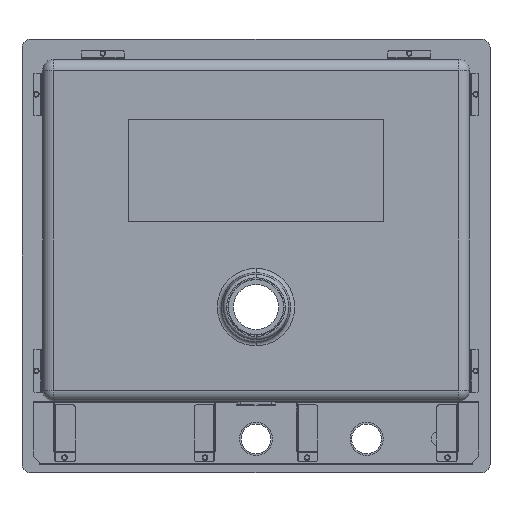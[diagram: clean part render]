
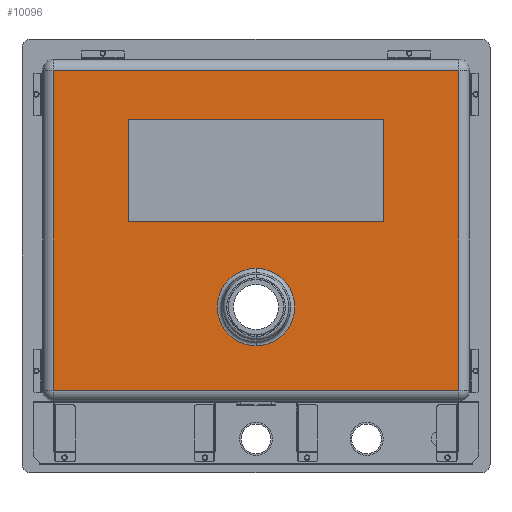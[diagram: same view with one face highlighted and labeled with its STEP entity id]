
A CAD part, front view. The second image highlights one B-rep face of the part: STEP entity #10096.
In plain terms, the highlighted planar face has unit normal (0, -1, 0).
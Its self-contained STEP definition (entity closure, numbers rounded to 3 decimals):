
#136 = VECTOR ( 'NONE', #2915, 1000. ) ;
#161 = ORIENTED_EDGE ( 'NONE', *, *, #6585, .F. ) ;
#162 = VERTEX_POINT ( 'NONE', #6644 ) ;
#616 = VERTEX_POINT ( 'NONE', #950 ) ;
#647 = EDGE_LOOP ( 'NONE', ( #8542, #11366 ) ) ;
#767 = VECTOR ( 'NONE', #3692, 1000. ) ;
#787 = FACE_BOUND ( 'NONE', #647, .T. ) ;
#928 = VECTOR ( 'NONE', #8875, 1000. ) ;
#933 = EDGE_CURVE ( 'NONE', #162, #10550, #2764, .T. ) ;
#950 = CARTESIAN_POINT ( 'NONE',  ( 508., -200.9, 408. ) ) ;
#1377 = LINE ( 'NONE', #4119, #136 ) ;
#2041 = CARTESIAN_POINT ( 'NONE',  ( 0., -200.9, 408. ) ) ;
#2388 = FACE_OUTER_BOUND ( 'NONE', #2451, .T. ) ;
#2399 = VERTEX_POINT ( 'NONE', #4101 ) ;
#2451 = EDGE_LOOP ( 'NONE', ( #161, #9147, #11455, #8308 ) ) ;
#2519 = DIRECTION ( 'NONE',  ( 0., 1., 0. ) ) ;
#2729 = CARTESIAN_POINT ( 'NONE',  ( 508., -200.9, 0. ) ) ;
#2764 = CIRCLE ( 'NONE', #5272, 45.535 ) ;
#2915 = DIRECTION ( 'NONE',  ( -1., 0., 0. ) ) ;
#2982 = VECTOR ( 'NONE', #10013, 1000. ) ;
#3185 = EDGE_CURVE ( 'NONE', #2399, #11620, #11798, .T. ) ;
#3692 = DIRECTION ( 'NONE',  ( 0., 0., -1. ) ) ;
#3975 = EDGE_CURVE ( 'NONE', #11510, #2399, #1377, .T. ) ;
#4101 = CARTESIAN_POINT ( 'NONE',  ( 32., -200.9, 32. ) ) ;
#4119 = CARTESIAN_POINT ( 'NONE',  ( 0., -200.9, 32. ) ) ;
#4200 = CARTESIAN_POINT ( 'NONE',  ( 270., -200.9, 130. ) ) ;
#4230 = CARTESIAN_POINT ( 'NONE',  ( 270., -200.9, 130. ) ) ;
#4398 = AXIS2_PLACEMENT_3D ( 'NONE', #4200, #7137, #10768 ) ;
#4443 = CARTESIAN_POINT ( 'NONE',  ( 32., -200.9, 408. ) ) ;
#5086 = EDGE_CURVE ( 'NONE', #10550, #162, #10484, .T. ) ;
#5198 = AXIS2_PLACEMENT_3D ( 'NONE', #8034, #2519, #5216 ) ;
#5216 = DIRECTION ( 'NONE',  ( 0., 0., 1. ) ) ;
#5272 = AXIS2_PLACEMENT_3D ( 'NONE', #4230, #9027, #7048 ) ;
#5384 = LINE ( 'NONE', #2729, #767 ) ;
#5994 = CARTESIAN_POINT ( 'NONE',  ( 508., -200.9, 32. ) ) ;
#6585 = EDGE_CURVE ( 'NONE', #11620, #616, #10238, .T. ) ;
#6644 = CARTESIAN_POINT ( 'NONE',  ( 270., -200.9, 84.465 ) ) ;
#7048 = DIRECTION ( 'NONE',  ( 0., 0., 1. ) ) ;
#7137 = DIRECTION ( 'NONE',  ( 0., -1., 0. ) ) ;
#7274 = CARTESIAN_POINT ( 'NONE',  ( 32., -200.9, 0. ) ) ;
#7360 = EDGE_CURVE ( 'NONE', #616, #11510, #5384, .T. ) ;
#7771 = CARTESIAN_POINT ( 'NONE',  ( 270., -200.9, 175.535 ) ) ;
#8034 = CARTESIAN_POINT ( 'NONE',  ( 0., -200.9, 0. ) ) ;
#8308 = ORIENTED_EDGE ( 'NONE', *, *, #7360, .F. ) ;
#8542 = ORIENTED_EDGE ( 'NONE', *, *, #5086, .F. ) ;
#8875 = DIRECTION ( 'NONE',  ( 1., 0., 0. ) ) ;
#9027 = DIRECTION ( 'NONE',  ( 0., -1., 0. ) ) ;
#9147 = ORIENTED_EDGE ( 'NONE', *, *, #3185, .F. ) ;
#9703 = PLANE ( 'NONE',  #5198 ) ;
#10013 = DIRECTION ( 'NONE',  ( 0., 0., 1. ) ) ;
#10096 = ADVANCED_FACE ( 'NONE', ( #787, #2388 ), #9703, .F. ) ;
#10238 = LINE ( 'NONE', #2041, #928 ) ;
#10484 = CIRCLE ( 'NONE', #4398, 45.535 ) ;
#10550 = VERTEX_POINT ( 'NONE', #7771 ) ;
#10768 = DIRECTION ( 'NONE',  ( 0., 0., 1. ) ) ;
#11366 = ORIENTED_EDGE ( 'NONE', *, *, #933, .F. ) ;
#11455 = ORIENTED_EDGE ( 'NONE', *, *, #3975, .F. ) ;
#11510 = VERTEX_POINT ( 'NONE', #5994 ) ;
#11620 = VERTEX_POINT ( 'NONE', #4443 ) ;
#11798 = LINE ( 'NONE', #7274, #2982 ) ;
